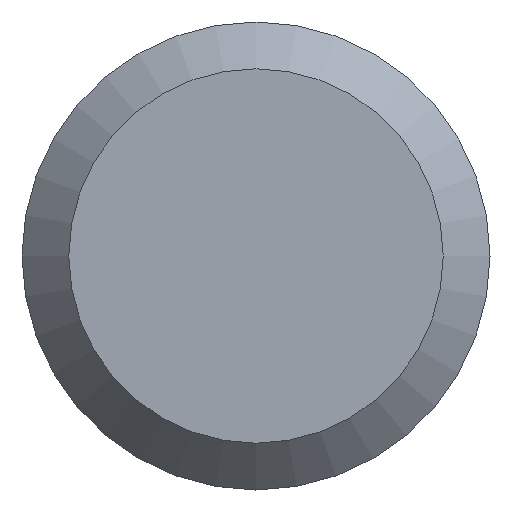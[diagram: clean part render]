
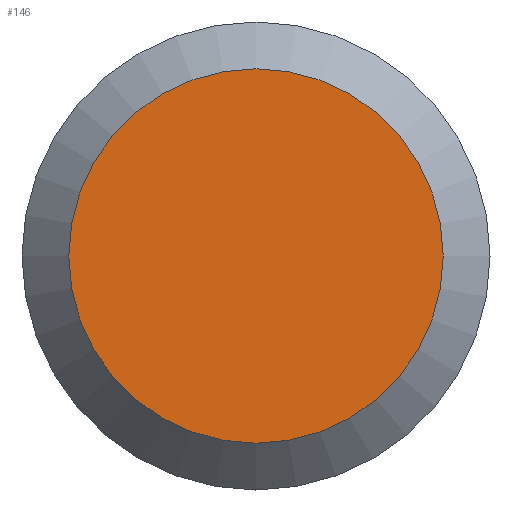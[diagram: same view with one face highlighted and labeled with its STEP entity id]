
A CAD part, left-side view. The second image highlights one B-rep face of the part: STEP entity #146.
In plain terms, the highlighted planar face has unit normal (-1, 0, 0).
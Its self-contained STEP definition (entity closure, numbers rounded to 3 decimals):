
#3 = DIRECTION ( 'NONE',  ( 0., 0., -1. ) ) ;
#49 = DIRECTION ( 'NONE',  ( 0., 0., -1. ) ) ;
#64 = AXIS2_PLACEMENT_3D ( 'NONE', #68, #176, #49 ) ;
#68 = CARTESIAN_POINT ( 'NONE',  ( 0., 0., 0. ) ) ;
#77 = CARTESIAN_POINT ( 'NONE',  ( 0., 7.938, 0. ) ) ;
#83 = CARTESIAN_POINT ( 'NONE',  ( 0., 0., -6.35 ) ) ;
#104 = AXIS2_PLACEMENT_3D ( 'NONE', #77, #119, #3 ) ;
#119 = DIRECTION ( 'NONE',  ( 1., 0., 0. ) ) ;
#123 = FACE_OUTER_BOUND ( 'NONE', #213, .T. ) ;
#135 = CIRCLE ( 'NONE', #64, 6.35 ) ;
#136 = PLANE ( 'NONE',  #104 ) ;
#146 = ADVANCED_FACE ( 'NONE', ( #123 ), #136, .F. ) ;
#176 = DIRECTION ( 'NONE',  ( -1., 0., 0. ) ) ;
#197 = EDGE_CURVE ( 'NONE', #209, #209, #135, .T. ) ;
#201 = ORIENTED_EDGE ( 'NONE', *, *, #197, .T. ) ;
#209 = VERTEX_POINT ( 'NONE', #83 ) ;
#213 = EDGE_LOOP ( 'NONE', ( #201 ) ) ;
